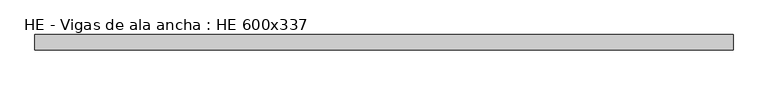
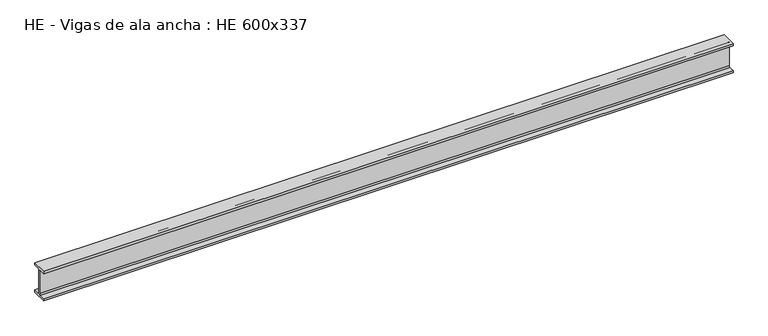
"""IFC4 building model written with IfcOpenShell, lengths in millimetres: beam geometry, HE - Vigas de ala ancha : HE 600x337."""

from ifc_helpers import new_model, si_unit, point, frame, frame_2d, origin, place, context, project, spatial, polyline, circle_curve, trimmed, segment, composite_curve, outline, extrude, source, transform, mapped, element, save


def he_vigas_de_ala_ancha_he_600x337_a84f927f(model_context):
    return source(origin(), model_context, "Body", "SweptSolid", [
        extrude(outline(composite_curve([segment(polyline([(155.0, -270.0), (155.0, -316.0), (-155.0, -316.0), (-155.0, -270.0), (-39.75, -270.0)]), True, "CONTINUOUS"), segment(trimmed(circle_curve(frame_2d((-39.75, -243.0)), 27.0), [point((-39.75, -270.0))], [point((-12.75, -243.0))], True, "CARTESIAN"), True, "CONTINUOUS"), segment(polyline([(-12.75, -243.0), (-12.75, 243.0)]), True, "CONTINUOUS"), segment(trimmed(circle_curve(frame_2d((-39.75, 243.0)), 27.0), [point((-12.75, 243.0))], [point((-39.75, 270.0))], True, "CARTESIAN"), True, "CONTINUOUS"), segment(polyline([(-39.75, 270.0), (-155.0, 270.0), (-155.0, 316.0), (155.0, 316.0), (155.0, 270.0), (39.75, 270.0)]), True, "CONTINUOUS"), segment(trimmed(circle_curve(frame_2d((39.75, 243.0)), 27.0), [point((39.75, 270.0))], [point((12.75, 243.0))], True, "CARTESIAN"), True, "CONTINUOUS"), segment(polyline([(12.75, 243.0), (12.75, -243.0)]), True, "CONTINUOUS"), segment(trimmed(circle_curve(frame_2d((39.75, -243.0)), 27.0), [point((12.75, -243.0))], [point((39.75, -270.0))], True, "CARTESIAN"), True, "CONTINUOUS"), segment(polyline([(39.75, -270.0), (155.0, -270.0)]), True, "CONTINUOUS")], self_intersect=False)), frame((-7250.0, 0.0, 0.0), z_axis=(1.0, 0.0, 0.0), x_axis=(0.0, 1.0, 0.0)), (0.0, 0.0, 1.0), 14055.9529122),
    ])


if __name__ == "__main__":
    model = new_model("IFC4")
    model_context = context("Model", 3, world=origin())
    ifc_project = project(units=[si_unit("LENGTHUNIT", "METRE", prefix="MILLI")], contexts=[model_context])
    site = spatial("IfcSite", under=ifc_project)
    building = spatial("IfcBuilding", under=site)
    placement = place(None, origin())
    he_vigas_de_ala_ancha_he_600x337_shape = he_vigas_de_ala_ancha_he_600x337_a84f927f(model_context)
    element("IfcBeam", 1, ObjectType="HE - Vigas de ala ancha : HE 600x337", at=placement, inside=building, context=model_context, shape_type="MappedRepresentation", body=[
        mapped(he_vigas_de_ala_ancha_he_600x337_shape, transform((0.0, 0.0, 0.0), x_axis=(1.0, 0.0, 0.0), y_axis=(0.0, 1.0, 0.0), z_axis=(0.0, 0.0, 1.0))),
    ])
    save(model, "model.ifc")
